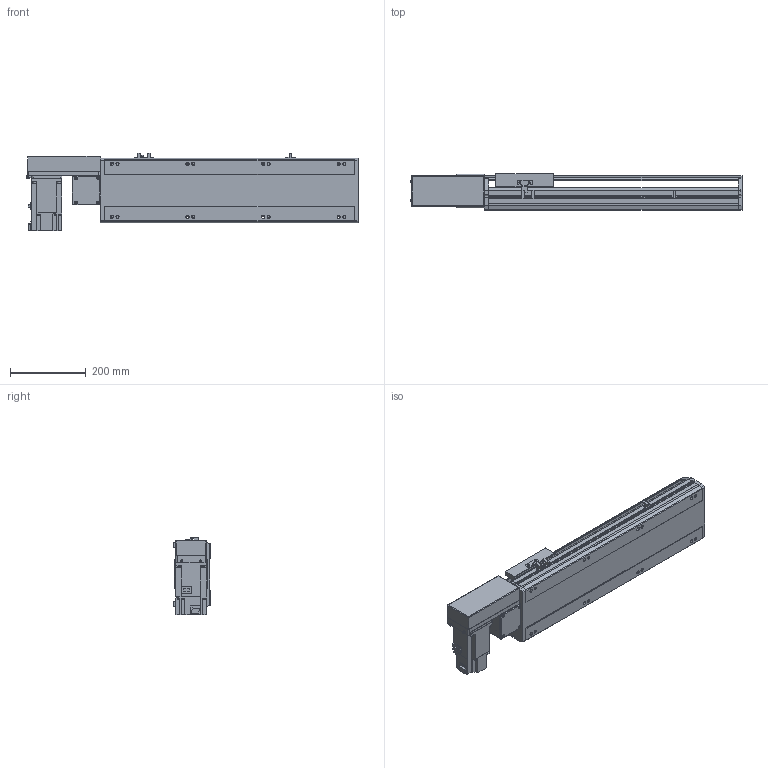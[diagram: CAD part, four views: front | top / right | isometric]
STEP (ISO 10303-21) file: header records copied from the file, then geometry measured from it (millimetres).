
FILE_DESCRIPTION( ( 'STEP AP214' ), '1' );
FILE_NAME( 'x:/temp/worker_4/temp/exporttempdir_2248_254_iSFcP/format_0/PBS170-P40-S400-R-T75-C1-N(0).stp', '2022-06-07T07:29:06', ( 'License CC BY-ND 4.0' ), ( 'CADENAS' ), ' ', 'PARTsolutions', ' ' );
FILE_SCHEMA( ( 'AUTOMOTIVE_DESIGN { 1 0 10303 214 1 1 1 1 }' ) );
Length unit declared in the file: millimetre
Products named in the file (7): PBS170-P40-S400-R-T75-C1-N(0); _PBS170-S400()_body; _PBS170T-R_motors; _T75-p1; _PBS170_sliser; _PBS170_plant; _PBS170_sensor
Assembly tree (8 placements, depth 2):
  PBS170-P40-S400-R-T75-C1-N(0)
    _PBS170-S400()_body
    _PBS170T-R_motors
    _T75-p1
    _PBS170_sliser
    _PBS170_plant
    _PBS170_sensor  x3
Bounding box: 878 x 97 x 205.3 mm (x, y, z)
Volume: 6717486 mm3; surface area: 923495.1 mm2
Topology: 8 solids, 8 shells, 1018 faces, 2715 edges, 1770 vertices
Faces by surface type: plane 663, cylinder 307, cone 38, sphere 8, torus 2
Full cylindrical faces by diameter (mm): 3.242 x4, 4 x2, 4.4 x4, 4.5 x6, 4.917 x4, 6 x9, 6.647 x16, 7 x2, 7.5 x4, 8 x8, 8.5 x8, 10 x4, 10.5 x8, 11 x2, 30 x2, 40 x1, 70 x1
Entity records: 37172 total; most frequent: CARTESIAN_POINT 5549, DIRECTION 5020, ORIENTED_EDGE 4788, EDGE_CURVE 2394, AXIS2_PLACEMENT_3D 1717, VERTEX_POINT 1634, LINE 1586, VECTOR 1586
